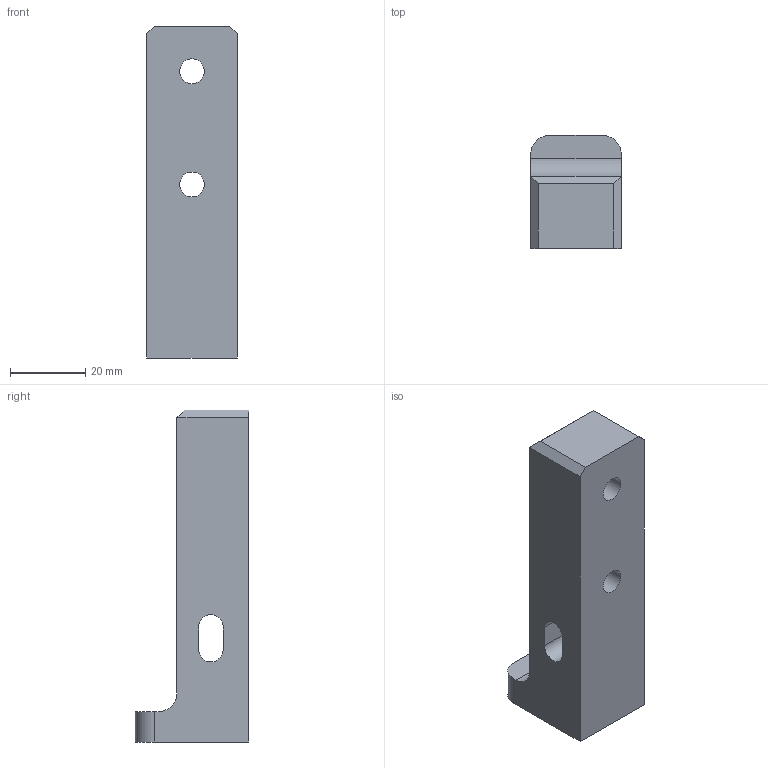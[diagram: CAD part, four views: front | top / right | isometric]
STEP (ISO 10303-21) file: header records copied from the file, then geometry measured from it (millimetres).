
FILE_DESCRIPTION(/* description */ ('BUTEE STOP','CAx-IF Rec.Pracs.---Representation and Presentation of Product Manufacturing Information (PMI)---4.0---2014-10-13'),/* implementation_level */ '2;1');
FILE_NAME(/* name */ 'vv810016-A.stp',/* time_stamp */ '2025-09-29T10:10:43+02:00',/* author */ ('ALOCQUE'),/* organization */ (''),/* preprocessor_version */ 'ST-DEVELOPER v20',/* originating_system */ 'Autodesk Inventor 2025',/* authorisation */ '');
FILE_SCHEMA (('AP242_MANAGED_MODEL_BASED_3D_ENGINEERING_MIM_LF { 1 0 10303 442 1 1 4 }'));
Length unit declared in the file: millimetre
Products named in the file (1): VICTOR.V.81.00.16
Bounding box: 24 x 30 x 88 mm (x, y, z)
Volume: 38610.9 mm3; surface area: 10236.1 mm2
Topology: 1 solids, 1 shells, 22 faces, 56 edges, 36 vertices
Faces by surface type: plane 13, cylinder 7, cone 2
Full cylindrical faces by diameter (mm): 6.6 x2
Entity records: 869 total; most frequent: CARTESIAN_POINT 160, DIRECTION 134, ORIENTED_EDGE 112, EDGE_CURVE 56, AXIS2_PLACEMENT_3D 47, LINE 40, VECTOR 40, VERTEX_POINT 36
